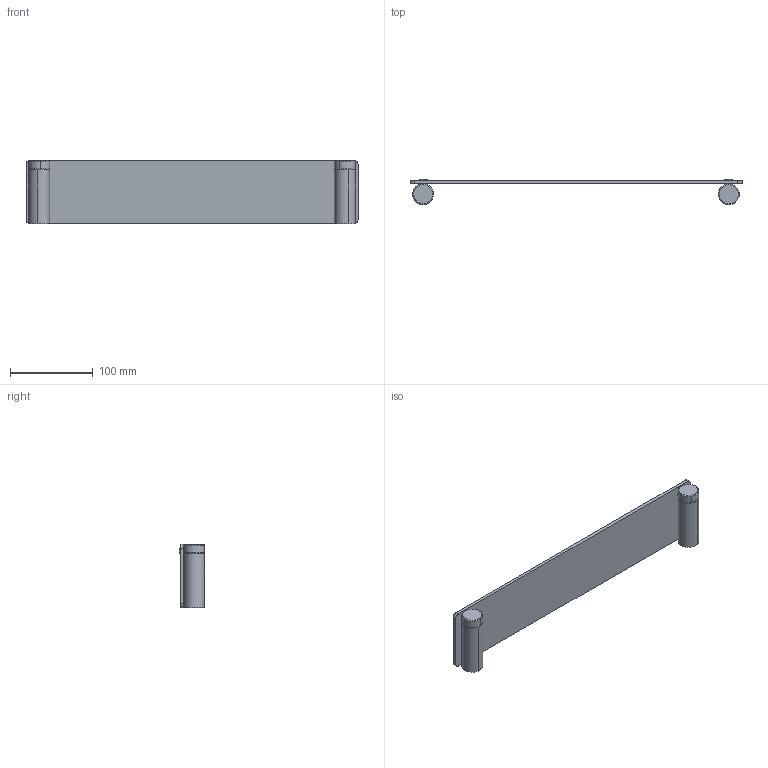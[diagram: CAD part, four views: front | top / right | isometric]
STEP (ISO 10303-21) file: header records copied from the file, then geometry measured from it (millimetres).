
FILE_DESCRIPTION (( 'STEP AP214' ), '1' );
FILE_NAME ('Pó³ka prysznicowa OTEA szklana 40 cm.STEP', '2025-10-08T07:10:50', ( '' ), ( '' ), 'SwSTEP 2.0', 'SolidWorks 2021', '' );
FILE_SCHEMA (( 'AUTOMOTIVE_DESIGN' ));
Length unit declared in the file: millimetre
Products named in the file (5): 01-016-0400-W-01-00; Szk³o pó³ka 40cm; Pó³ka prysznicowa OTEA szklana 40 cm; Œruba M10; Dystans monta¿owy
Assembly tree (7 placements, depth 2):
  Pó³ka prysznicowa OTEA szklana 40 cm
    Szk³o pó³ka 40cm
    Dystans monta¿owy  x2
    01-016-0400-W-01-00  x2
    Œruba M10  x2
Bounding box: 400 x 30.36 x 77 mm (x, y, z)
Volume: 188621.4 mm3; surface area: 89497.4 mm2
Topology: 7 solids, 7 shells, 178 faces, 448 edges, 288 vertices
Faces by surface type: cylinder 104, plane 56, bspline 14, torus 4
Entity records: 8586 total; most frequent: CARTESIAN_POINT 6194, ORIENTED_EDGE 496, DIRECTION 423, EDGE_CURVE 248, VERTEX_POINT 160, AXIS2_PLACEMENT_3D 153, LINE 117, VECTOR 117
